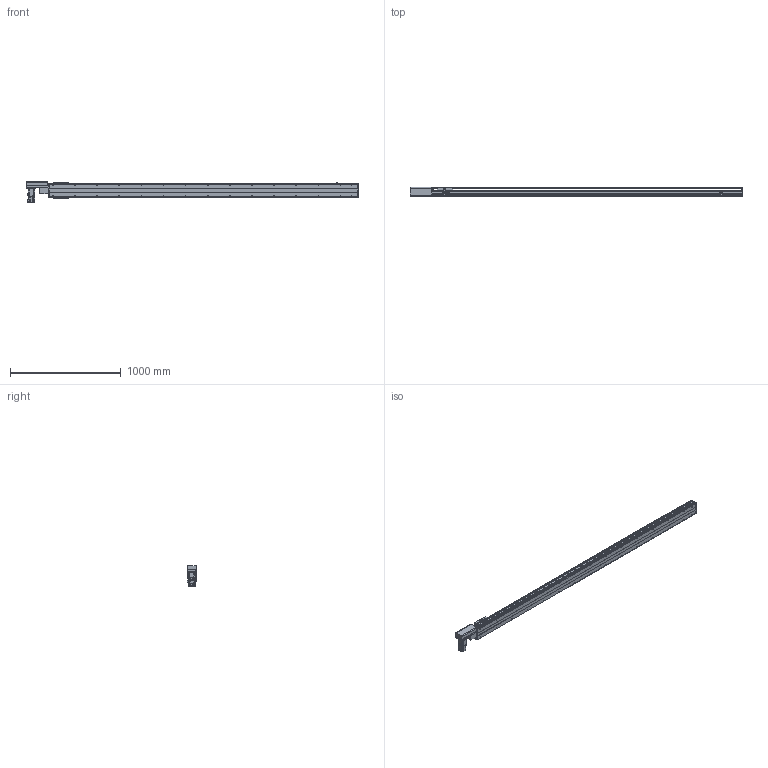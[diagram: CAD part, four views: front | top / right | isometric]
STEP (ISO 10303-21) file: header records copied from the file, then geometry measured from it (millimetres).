
FILE_DESCRIPTION(/* description */ ('STEP AP214'),/* implementation_level */ '2;1');
FILE_NAME(/* name */ 'PBS120-P40-S2500-R-T40-C1-N(0)',/* time_stamp */ '2022-06-06T02:10:25+02:00',/* author */ ('License CC BY-ND 4.0'),/* organization */ ('CADENAS'),/* preprocessor_version */ 'ST-DEVELOPER v18.102',/* originating_system */ 'PARTsolutions',/* authorisation */ ' ');
FILE_SCHEMA (('AUTOMOTIVE_DESIGN {1 0 10303 214 3 1 1}'));
Length unit declared in the file: millimetre
Products named in the file (7): PBS120-P40-S2500-R-T40-C1-N(0); PBS120_sensor; PBS120_plant; PBS120_sliser; T40-p1; PBS120T-R_motors; PBS120-S2500()_body
Assembly tree (8 placements, depth 2):
  PBS120-P40-S2500-R-T40-C1-N(0)
    PBS120_sensor  x3
    PBS120_plant
    PBS120_sliser
    T40-p1
    PBS120T-R_motors
    PBS120-S2500()_body
Bounding box: 3001 x 83 x 189.7 mm (x, y, z)
Volume: 10843617.8 mm3; surface area: 2241065.7 mm2
Topology: 8 solids, 8 shells, 870 faces, 2226 edges, 1429 vertices
Faces by surface type: plane 563, cylinder 243, cone 62, torus 2
Full cylindrical faces by diameter (mm): 2.459 x6, 3.242 x4, 4 x2, 4.134 x4, 4.5 x10, 4.917 x34, 5.5 x11, 6 x2, 6.6 x1, 7 x2, 8.5 x4, 9 x4, 12 x1, 14 x1, 30 x2, 40 x1, 50 x2
Entity records: 22434 total; most frequent: DIRECTION 3908, CARTESIAN_POINT 3803, ORIENTED_EDGE 3586, EDGE_CURVE 1793, AXIS2_PLACEMENT_3D 1340, VERTEX_POINT 1235, LINE 1228, VECTOR 1228
